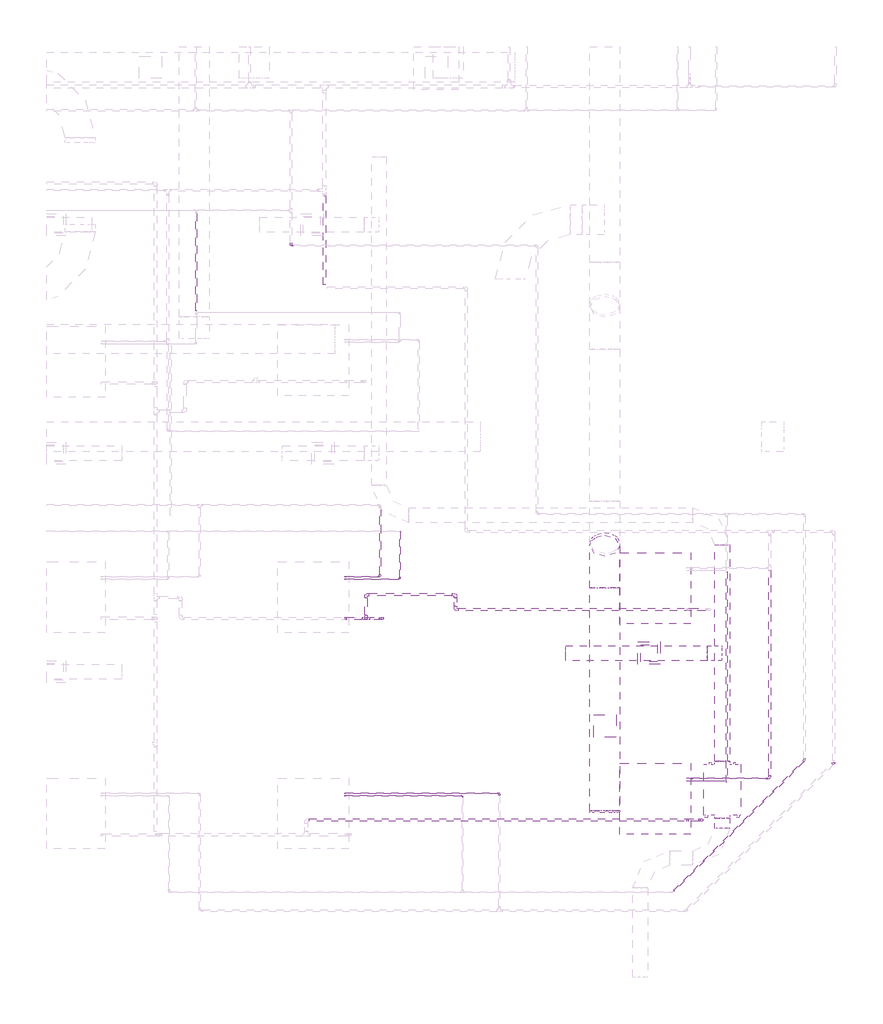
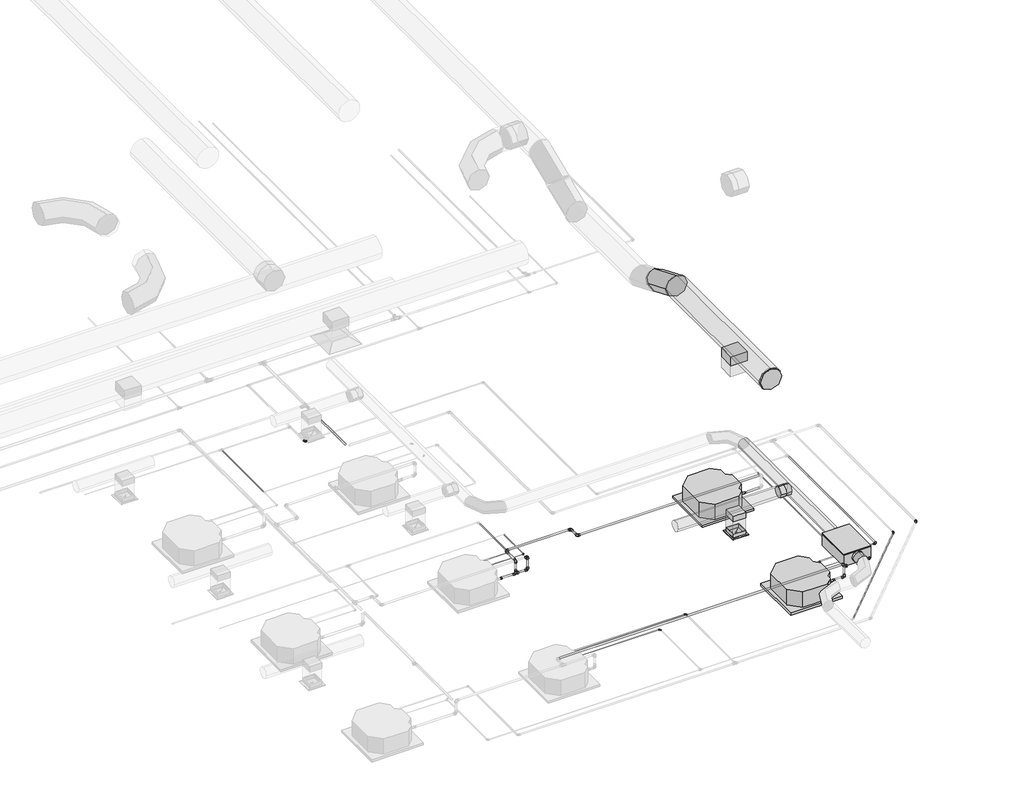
# One storey, part 11 of 21: 26 pipe fittings, 26 pipe segments, 7 duct segments, 5 duct fittings, 3 proxies, 1 air terminal.
"""IFC4 building model written with IfcOpenShell, lengths in millimetres."""

from ifc_helpers import new_model, si_unit, point, frame, frame_2d, origin, place, context, project, spatial, polyline, circle_curve, trimmed, segment, composite_curve, outline, extrude, transform, mapped, element, save
from components import sdq3535_a75e83f7, mechanical_equipment_53173f38, fh_fh_200_396573c7, duct_fitting_7b39ec1d, duct_fitting_95c1ddea, duct_fitting_4c01d837, duct_fitting_2_d_9d61b47e, m_capa_de_extremidade_redonda_c14c7098, pipe_fitting_e2d793b1, pipe_fitting_535881cf, pipe_fitting_1c810b01, pipe_fitting_f6448261, pipe_fitting_0964a024, pipe_fitting_a5ff4f7d, pipe_fitting_5aefb692, pipe_fitting_5f087375, pipe_fitting_c900cfc2, pipe_fitting_16c020f5, pipe_fitting_0e110a5f, pipe_fitting_a9265b51, pipe_fitting_59d1f3e3, pipe_fitting_648138cd, pipe_fitting_58ab9b66

model = new_model("IFC4")

# Units and contexts
model_context = context("Model", 3, world=origin())
ifc_project = project(units=[si_unit("LENGTHUNIT", "METRE", prefix="MILLI")], contexts=[model_context])

# Site, building, storey
site = spatial("IfcSite", under=ifc_project)
building = spatial("IfcBuilding", under=site)
storey = spatial("IfcBuildingStorey", under=building, Name="Nível 1", Elevation=0.0)

# Air terminal
placement = place(None, origin())
sdq3535_shape = sdq3535_a75e83f7(model_context)
element("IfcAirTerminal", 1, ObjectType="11 - Difusor Quadrado : SDQ3535", at=placement, inside=storey, context=model_context, shape_type="MappedRepresentation", body=[
    mapped(sdq3535_shape, transform((28306.2779858, -5568.1233987, 3000.0), x_axis=(0.0, 1.0, 0.0), y_axis=(-1.0, 0.0, 0.0), z_axis=(0.0, 0.0, 1.0))),
])

# Proxies
mechanical_equipment_shape = mechanical_equipment_53173f38(model_context)
element("IfcBuildingElementProxy", 2, Name="Midea_VRF_Indoor_4-way Cassette_MI-90(100,112,140)Q4_DHN1-D (2nd DC) : MI2-140Q4DHN1", ObjectType="Midea_VRF_Indoor_4-way Cassette_MI-90(100,112,140)Q4_DHN1-D (2nd DC) : MI2-140Q4DHN1", at=placement, inside=storey, context=model_context, shape_type="MappedRepresentation", body=[
    mapped(mechanical_equipment_shape, transform((28388.6034633, -7519.1233987, 2999.9934593), x_axis=(1.0, 0.0, 0.0), y_axis=(0.0, 1.0, 0.0), z_axis=(0.0, 0.0, 1.0))),
])
element("IfcBuildingElementProxy", 3, Name="Midea_VRF_Indoor_4-way Cassette_MI-90(100,112,140)Q4_DHN1-D (2nd DC) : MI2-140Q4DHN1", ObjectType="Midea_VRF_Indoor_4-way Cassette_MI-90(100,112,140)Q4_DHN1-D (2nd DC) : MI2-140Q4DHN1", at=placement, inside=storey, context=model_context, shape_type="MappedRepresentation", body=[
    mapped(mechanical_equipment_shape, transform((28388.6034633, -4699.1233987, 3000.0), x_axis=(1.0, 0.0, 0.0), y_axis=(0.0, 1.0, 0.0), z_axis=(0.0, 0.0, 1.0))),
])
fh_fh_200_shape = fh_fh_200_396573c7(model_context)
element("IfcBuildingElementProxy", 4, Name="FH : FH 200", ObjectType="FH : FH 200", at=placement, inside=storey, context=model_context, shape_type="MappedRepresentation", body=[
    mapped(fh_fh_200_shape, transform((29288.6034633, -7399.1233987, 3400.0), x_axis=(1.0, 0.0, 0.0), y_axis=(0.0, 1.0, 0.0), z_axis=(0.0, 0.0, 1.0))),
])

# Duct fittings
duct_fitting_shape = duct_fitting_7b39ec1d(model_context)
element("IfcDuctFitting", 5, ObjectType="M_Encaixe de duto redondo : Padrão", at=placement, inside=storey, context=model_context, shape_type="MappedRepresentation", body=[
    mapped(duct_fitting_shape, transform((29189.1034633, -5568.1233987, 3521.0), x_axis=(-1.0, 0.0, 0.0), y_axis=(0.0, 1.0, 0.0), z_axis=(0.0, 0.0, -1.0))),
])
duct_fitting_2_shape = duct_fitting_95c1ddea(model_context)
element("IfcDuctFitting", 6, ObjectType="M_Encaixe de duto retangular : Padrão", at=placement, inside=storey, context=model_context, shape_type="MappedRepresentation", body=[
    mapped(duct_fitting_2_shape, transform((27714.7064473, -6543.2709697, 7301.0), x_axis=(0.0, 0.0, -1.0), y_axis=(0.0, 1.0, 0.0), z_axis=(1.0, 0.0, 0.0))),
])
duct_fitting_3_shape = duct_fitting_4c01d837(model_context)
element("IfcDuctFitting", 7, ObjectType="M_Encaixe de duto retangular : Padrão", at=placement, inside=storey, context=model_context, shape_type="MappedRepresentation", body=[
    mapped(duct_fitting_3_shape, transform((28306.2779858, -5568.1233987, 3421.5), x_axis=(0.0, 0.0, -1.0), y_axis=(1.0, 0.0, 0.0), z_axis=(0.0, -1.0, 0.0))),
])
duct_fitting_2_d_shape = duct_fitting_2_d_9d61b47e(model_context)
element("IfcDuctFitting", 8, ObjectType="M_Cotovelo redondo : 2 D", at=placement, inside=storey, context=model_context, shape_type="MappedRepresentation", body=[
    mapped(duct_fitting_2_d_shape, transform((27714.7064473, -4363.6460251, 7501.0), x_axis=(0.0, -0.707106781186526, 0.7071067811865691), y_axis=(0.0, -0.7071067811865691, -0.707106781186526), z_axis=(1.0, 0.0, 0.0))),
])
m_capa_de_extremidade_redonda_shape = m_capa_de_extremidade_redonda_c14c7098(model_context)
element("IfcDuctFitting", 9, ObjectType="M_Capa de extremidade redonda : Padrão", at=placement, inside=storey, context=model_context, shape_type="MappedRepresentation", body=[
    mapped(m_capa_de_extremidade_redonda_shape, transform((27714.7064473, -7683.3010158, 7501.0), x_axis=(0.0, -1.0, 0.0), y_axis=(1.0, 0.0, 0.0), z_axis=(0.0, 0.0, 1.0))),
])

# Duct segments
element("IfcDuctSegment", 10, ObjectType="Torneiras / Raio curto", at=placement, inside=storey, context=model_context, shape_type="SweptSolid", body=[
    extrude(outline(composite_curve([segment(trimmed(circle_curve(frame_2d((3521.0, 29288.6034633)), 99.5), [point((3521.0, 29189.1034633))], [point((3421.5, 29288.6034633))], False, "CARTESIAN"), True, "CONTINUOUS"), segment(trimmed(circle_curve(frame_2d((3521.0, 29288.6034633)), 99.5), [point((3421.5, 29288.6034633))], [point((3521.0, 29388.1034633))], False, "CARTESIAN"), True, "CONTINUOUS"), segment(trimmed(circle_curve(frame_2d((3521.0, 29288.6034633)), 99.5), [point((3521.0, 29388.1034633))], [point((3620.5, 29288.6034633))], False, "CARTESIAN"), True, "CONTINUOUS"), segment(trimmed(circle_curve(frame_2d((3521.0, 29288.6034633)), 99.5), [point((3620.5, 29288.6034633))], [point((3521.0, 29189.1034633))], False, "CARTESIAN"), True, "CONTINUOUS")], self_intersect=False)), frame((0.0, -7915.4180027, 0.0), z_axis=(0.0, 1.0, 0.0), x_axis=(0.0, 0.0, 1.0)), (0.0, 0.0, 1.0), 136.294604),
])
element("IfcDuctSegment", 11, ObjectType="Torneiras / Raio curto", at=placement, inside=storey, context=model_context, shape_type="SweptSolid", body=[
    extrude(outline(composite_curve([segment(trimmed(circle_curve(frame_2d((3521.0, 29288.6034633)), 99.5), [point((3521.0, 29388.1034633))], [point((3620.5, 29288.6034633))], False, "CARTESIAN"), True, "CONTINUOUS"), segment(trimmed(circle_curve(frame_2d((3521.0, 29288.6034633)), 99.5), [point((3620.5, 29288.6034633))], [point((3521.0, 29189.1034633))], False, "CARTESIAN"), True, "CONTINUOUS"), segment(trimmed(circle_curve(frame_2d((3521.0, 29288.6034633)), 99.5), [point((3521.0, 29189.1034633))], [point((3421.5, 29288.6034633))], False, "CARTESIAN"), True, "CONTINUOUS"), segment(trimmed(circle_curve(frame_2d((3521.0, 29288.6034633)), 99.5), [point((3421.5, 29288.6034633))], [point((3521.0, 29388.1034633))], False, "CARTESIAN"), True, "CONTINUOUS")], self_intersect=False)), frame((0.0, -7019.1233987, 0.0), z_axis=(0.0, 1.0, 0.0), x_axis=(0.0, 0.0, 1.0)), (0.0, 0.0, 1.0), 2902.0),
])
element("IfcDuctSegment", 12, ObjectType="Torneiras / Raio curto", at=placement, inside=storey, context=model_context, shape_type="SweptSolid", body=[
    extrude(outline(composite_curve([segment(trimmed(circle_curve(frame_2d((-5568.1233987, 3521.0)), 99.5), [point((-5468.6233987, 3521.0))], [point((-5568.1233987, 3421.5))], False, "CARTESIAN"), True, "CONTINUOUS"), segment(trimmed(circle_curve(frame_2d((-5568.1233987, 3521.0)), 99.5), [point((-5568.1233987, 3421.5))], [point((-5667.6233987, 3521.0))], False, "CARTESIAN"), True, "CONTINUOUS"), segment(trimmed(circle_curve(frame_2d((-5568.1233987, 3521.0)), 99.5), [point((-5667.6233987, 3521.0))], [point((-5568.1233987, 3620.5))], False, "CARTESIAN"), True, "CONTINUOUS"), segment(trimmed(circle_curve(frame_2d((-5568.1233987, 3521.0)), 99.5), [point((-5568.1233987, 3620.5))], [point((-5468.6233987, 3521.0))], False, "CARTESIAN"), True, "CONTINUOUS")], self_intersect=False)), frame((27188.6034633, 0.0, 0.0), z_axis=(1.0, 0.0, 0.0), x_axis=(0.0, 1.0, 0.0)), (0.0, 0.0, 1.0), 1898.9),
])
element("IfcDuctSegment", 13, ObjectType="Raios cotovelos / torneiras", at=placement, inside=storey, context=model_context, shape_type="SweptSolid", body=[
    extrude(outline(polyline([(28193.7779858, -5455.6233987), (28418.7779858, -5455.6233987), (28418.7779858, -5680.6233987), (28193.7779858, -5680.6233987), (28193.7779858, -5455.6233987)])), frame((0.0, 0.0, 3005.0), z_axis=(0.0, 0.0, 1.0), x_axis=(1.0, 0.0, 0.0)), (0.0, 0.0, 1.0), 314.9),
])
element("IfcDuctSegment", 14, ObjectType="Torneiras / Raio curto", at=placement, inside=storey, context=model_context, shape_type="SweptSolid", body=[
    extrude(outline(composite_curve([segment(trimmed(circle_curve(frame_2d((7501.0, 27714.7064473)), 200.0), [point((7501.0, 27514.7064473))], [point((7301.0, 27714.7064473))], False, "CARTESIAN"), True, "CONTINUOUS"), segment(trimmed(circle_curve(frame_2d((7501.0, 27714.7064473)), 200.0), [point((7301.0, 27714.7064473))], [point((7501.0, 27914.7064473))], False, "CARTESIAN"), True, "CONTINUOUS"), segment(trimmed(circle_curve(frame_2d((7501.0, 27714.7064473)), 200.0), [point((7501.0, 27914.7064473))], [point((7701.0, 27714.7064473))], False, "CARTESIAN"), True, "CONTINUOUS"), segment(trimmed(circle_curve(frame_2d((7501.0, 27714.7064473)), 200.0), [point((7701.0, 27714.7064473))], [point((7501.0, 27514.7064473))], False, "CARTESIAN"), True, "CONTINUOUS")], self_intersect=False)), frame((0.0, -7683.3010158, 0.0), z_axis=(0.0, 1.0, 0.0), x_axis=(0.0, 0.0, 1.0)), (0.0, 0.0, 1.0), 2988.2841408),
])
element("IfcDuctSegment", 15, ObjectType="Torneiras / Raio curto", at=placement, inside=storey, context=model_context, shape_type="SweptSolid", body=[
    extrude(outline(composite_curve([segment(trimmed(circle_curve(frame_2d((0.0, 200.0)), 200.0), [point((-200.0, 200.0))], [point((0.0, 400.0))], False, "CARTESIAN"), True, "CONTINUOUS"), segment(trimmed(circle_curve(frame_2d((0.0, 200.0)), 200.0), [point((0.0, 400.0))], [point((200.0, 200.0))], False, "CARTESIAN"), True, "CONTINUOUS"), segment(trimmed(circle_curve(frame_2d((0.0, 200.0)), 200.0), [point((200.0, 200.0))], [point((0.0, 0.0))], False, "CARTESIAN"), True, "CONTINUOUS"), segment(trimmed(circle_curve(frame_2d((0.0, 200.0)), 200.0), [point((0.0, 0.0))], [point((-200.0, 200.0))], False, "CARTESIAN"), True, "CONTINUOUS")], self_intersect=False)), frame((27714.7064473, -4238.3819564, 7092.8932188), z_axis=(0.0, -0.7071067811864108, 0.7071067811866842), x_axis=(1.0, 0.0, 0.0)), (0.0, 0.0, 1.0), 45.779295),
])
element("IfcDuctSegment", 16, ObjectType="Raios cotovelos / torneiras", at=placement, inside=storey, context=model_context, shape_type="SweptSolid", body=[
    extrude(outline(polyline([(27564.7064473, -6693.2709697), (27564.7064473, -6393.2709697), (27864.7064473, -6393.2709697), (27864.7064473, -6693.2709697), (27564.7064473, -6693.2709697)])), frame((0.0, 0.0, 6981.6), z_axis=(0.0, 0.0, 1.0), x_axis=(1.0, 0.0, 0.0)), (0.0, 0.0, 1.0), 217.8),
])

# Pipe fittings
pipe_fitting_shape = pipe_fitting_e2d793b1(model_context)
element("IfcPipeFitting", 17, ObjectType="Bucha de redução reta - Soldada - CU : Padrão", at=placement, inside=storey, context=model_context, shape_type="MappedRepresentation", body=[
    mapped(pipe_fitting_shape, transform((24230.0530733, -5101.980613, 3252.3085101), x_axis=(1.0, 0.0, 0.0), y_axis=(0.0, 1.0, 0.0), z_axis=(0.0, 0.0, 1.0))),
])
element("IfcPipeFitting", 18, ObjectType="Bucha de redução reta - Soldada - CU : Padrão", at=placement, inside=storey, context=model_context, shape_type="MappedRepresentation", body=[
    mapped(pipe_fitting_shape, transform((28813.6034633, -7804.1233987, 3252.3019694), x_axis=(1.0, 0.0, 0.0), y_axis=(0.0, 1.0, 0.0), z_axis=(0.0, 0.0, 1.0))),
])
pipe_fitting_2_shape = pipe_fitting_535881cf(model_context)
element("IfcPipeFitting", 19, ObjectType="Cotovelo - Soldado - CU : Padrão", at=placement, inside=storey, context=model_context, shape_type="MappedRepresentation", body=[
    mapped(pipe_fitting_2_shape, transform((24730.0530732, -5101.980613, 3500.0), x_axis=(0.0, 0.0, 1.0), y_axis=(-1.0, 0.0, 0.0), z_axis=(0.0, -1.0, 0.0))),
])
element("IfcPipeFitting", 20, ObjectType="Cotovelo - Soldado - CU : Padrão", at=placement, inside=storey, context=model_context, shape_type="MappedRepresentation", body=[
    mapped(pipe_fitting_2_shape, transform((25713.6034631, -4984.1233987, 3500.0), x_axis=(0.0, -1.0, 0.0), y_axis=(1.0, 0.0, 0.0), z_axis=(0.0, 0.0, 1.0))),
])
element("IfcPipeFitting", 21, ObjectType="Cotovelo - Soldado - CU : Padrão", at=placement, inside=storey, context=model_context, shape_type="MappedRepresentation", body=[
    mapped(pipe_fitting_2_shape, transform((25713.6034631, -4784.1233987, 3500.0), x_axis=(0.0, 1.0, 0.0), y_axis=(-1.0, 0.0, 0.0), z_axis=(0.0, 0.0, 1.0))),
])
element("IfcPipeFitting", 22, ObjectType="Cotovelo - Soldado - CU : Padrão", at=placement, inside=storey, context=model_context, shape_type="MappedRepresentation", body=[
    mapped(pipe_fitting_2_shape, transform((24513.6034631, -5101.980613, 3500.0), x_axis=(0.0, 0.0, 1.0), y_axis=(0.0, 1.0, 0.0), z_axis=(-1.0, 0.0, 0.0))),
])
element("IfcPipeFitting", 23, ObjectType="Cotovelo - Soldado - CU : Padrão", at=placement, inside=storey, context=model_context, shape_type="MappedRepresentation", body=[
    mapped(pipe_fitting_2_shape, transform((24513.6034631, -4784.1233987, 3500.0), x_axis=(-1.0, 0.0, 0.0), y_axis=(0.0, -1.0, 0.0), z_axis=(0.0, 0.0, 1.0))),
])
element("IfcPipeFitting", 24, ObjectType="Cotovelo - Soldado - CU : Padrão", at=placement, inside=storey, context=model_context, shape_type="MappedRepresentation", body=[
    mapped(pipe_fitting_2_shape, transform((29013.6034631, -7804.1233987, 3500.0), x_axis=(0.0, 0.0, 1.0), y_axis=(-1.0, 0.0, 0.0), z_axis=(0.0, -1.0, 0.0))),
])
pipe_fitting_3_shape = pipe_fitting_1c810b01(model_context)
element("IfcPipeFitting", 25, ObjectType="Cotovelo - Soldado - CU : Padrão", at=placement, inside=storey, context=model_context, shape_type="MappedRepresentation", body=[
    mapped(pipe_fitting_3_shape, transform((24730.0530732, -5101.980613, 3252.3), x_axis=(0.9999999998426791, 0.0, -1.7738146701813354e-05), y_axis=(1.7738146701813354e-05, 0.0, 0.9999999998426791), z_axis=(0.0, -1.0, 0.0))),
])
pipe_fitting_4_shape = pipe_fitting_f6448261(model_context)
element("IfcPipeFitting", 26, ObjectType="Tê - Soldado - CU : Padrão", at=placement, inside=storey, context=model_context, shape_type="MappedRepresentation", body=[
    mapped(pipe_fitting_4_shape, transform((24513.6034631, -5101.980613, 3252.3038394), x_axis=(-0.9999999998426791, 0.0, 1.7738146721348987e-05), y_axis=(-1.7738146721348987e-05, 0.0, -0.9999999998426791), z_axis=(0.0, -1.0, 0.0))),
])
pipe_fitting_5_shape = pipe_fitting_0964a024(model_context)
element("IfcPipeFitting", 27, ObjectType="Cotovelo - Soldado - CU : Padrão", at=placement, inside=storey, context=model_context, shape_type="MappedRepresentation", body=[
    mapped(pipe_fitting_5_shape, transform((29013.6034631, -7804.1233987, 3252.3), x_axis=(0.9999999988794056, 0.0, -4.734119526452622e-05), y_axis=(4.734119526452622e-05, 0.0, 0.9999999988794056), z_axis=(0.0, -1.0, 0.0))),
])
pipe_fitting_6_shape = pipe_fitting_a5ff4f7d(model_context)
element("IfcPipeFitting", 28, ObjectType="Bucha de redução reta - Soldada - CU : Padrão", at=placement, inside=storey, context=model_context, shape_type="MappedRepresentation", body=[
    mapped(pipe_fitting_6_shape, transform((29889.7584103, -7245.9125851, 3246.9890743), x_axis=(-0.9999844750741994, 0.0, 0.0055722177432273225), y_axis=(0.0, -1.0, 0.0), z_axis=(0.0055722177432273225, 0.0, 0.9999844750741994))),
])
pipe_fitting_7_shape = pipe_fitting_5aefb692(model_context)
element("IfcPipeFitting", 29, ObjectType="Cotovelo - Soldado - CU : Padrão", at=placement, inside=storey, context=model_context, shape_type="MappedRepresentation", body=[
    mapped(pipe_fitting_7_shape, transform((29923.6894835, -7245.9125851, 3246.8), x_axis=(0.9999844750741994, 0.0, -0.0055722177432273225), y_axis=(0.0, 1.0, 0.0), z_axis=(0.0055722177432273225, 0.0, 0.9999844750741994))),
])
pipe_fitting_8_shape = pipe_fitting_5f087375(model_context)
element("IfcPipeFitting", 30, ObjectType="Cotovelo - Soldado - CU : Padrão", at=placement, inside=storey, context=model_context, shape_type="MappedRepresentation", body=[
    mapped(pipe_fitting_8_shape, transform((30783.5082335, -7037.5722412, 3246.8), x_axis=(0.7071067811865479, 0.7071067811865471, 0.0), y_axis=(-0.7071067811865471, 0.7071067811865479, 0.0), z_axis=(0.0, 0.0, 1.0))),
])
pipe_fitting_9_shape = pipe_fitting_c900cfc2(model_context)
element("IfcPipeFitting", 31, ObjectType="Bucha de redução reta - Soldada - CU : Padrão", at=placement, inside=storey, context=model_context, shape_type="MappedRepresentation", body=[
    mapped(pipe_fitting_9_shape, transform((24230.0530733, -7443.7697994, 3252.3085101), x_axis=(1.0, 0.0, 0.0), y_axis=(0.0, 1.0, 0.0), z_axis=(0.0, 0.0, 1.0))),
])
element("IfcPipeFitting", 32, ObjectType="Bucha de redução reta - Soldada - CU : Padrão", at=placement, inside=storey, context=model_context, shape_type="MappedRepresentation", body=[
    mapped(pipe_fitting_9_shape, transform((24230.0530733, -4543.7697994, 3252.3085101), x_axis=(1.0, 0.0, 0.0), y_axis=(0.0, 1.0, 0.0), z_axis=(0.0, 0.0, 1.0))),
])
element("IfcPipeFitting", 33, ObjectType="Bucha de redução reta - Soldada - CU : Padrão", at=placement, inside=storey, context=model_context, shape_type="MappedRepresentation", body=[
    mapped(pipe_fitting_9_shape, transform((28877.0623051, -7245.9125851, 3252.3019694), x_axis=(1.0, 0.0, 0.0), y_axis=(0.0, 1.0, 0.0), z_axis=(0.0, 0.0, 1.0))),
])
pipe_fitting_10_shape = pipe_fitting_16c020f5(model_context)
element("IfcPipeFitting", 34, ObjectType="Cotovelo - Soldado - CU : Padrão", at=placement, inside=storey, context=model_context, shape_type="MappedRepresentation", body=[
    mapped(pipe_fitting_10_shape, transform((24702.7119733, -4543.7697994, 3252.3085101), x_axis=(1.0, 0.0, 0.0), y_axis=(0.0, 0.9999766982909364, 0.0068266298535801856), z_axis=(0.0, -0.0068266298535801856, 0.9999766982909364))),
])
element("IfcPipeFitting", 35, ObjectType="Cotovelo - Soldado - CU : Padrão", at=placement, inside=storey, context=model_context, shape_type="MappedRepresentation", body=[
    mapped(pipe_fitting_10_shape, transform((26301.0744733, -7443.7697994, 3252.3085101), x_axis=(0.0, 0.9999931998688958, 0.003687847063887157), y_axis=(-1.0, 0.0, 0.0), z_axis=(0.0, -0.003687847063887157, 0.9999931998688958))),
])
pipe_fitting_11_shape = pipe_fitting_0e110a5f(model_context)
element("IfcPipeFitting", 36, ObjectType="Cotovelo - Soldado - CU : Padrão", at=placement, inside=storey, context=model_context, shape_type="MappedRepresentation", body=[
    mapped(pipe_fitting_11_shape, transform((23507.2025647, -103.2962428, 3146.8), x_axis=(0.0, -1.0, 0.0), y_axis=(1.0, 0.0, 0.0), z_axis=(0.0, 0.0, 1.0))),
])
pipe_fitting_12_shape = pipe_fitting_a9265b51(model_context)
element("IfcPipeFitting", 37, ObjectType="Cotovelo - Soldado - CU : Padrão", at=placement, inside=storey, context=model_context, shape_type="MappedRepresentation", body=[
    mapped(pipe_fitting_12_shape, transform((30389.1894121, -7003.2962428, 3146.8), x_axis=(0.7071067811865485, 0.7071067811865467, 0.0), y_axis=(-0.7071067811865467, 0.7071067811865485, 0.0), z_axis=(0.0, 0.0, 1.0))),
])
pipe_fitting_13_shape = pipe_fitting_59d1f3e3(model_context)
element("IfcPipeFitting", 38, ObjectType="Bucha de redução reta - Soldada - CU : Padrão", at=placement, inside=storey, context=model_context, shape_type="MappedRepresentation", body=[
    mapped(pipe_fitting_13_shape, transform((24230.0530733, -7477.5722412, 3146.8446487), x_axis=(1.0, 0.0, 0.0), y_axis=(0.0, 1.0, 0.0), z_axis=(0.0, 0.0, 1.0))),
])
element("IfcPipeFitting", 39, ObjectType="Bucha de redução reta - Soldada - CU : Padrão", at=placement, inside=storey, context=model_context, shape_type="MappedRepresentation", body=[
    mapped(pipe_fitting_13_shape, transform((28813.6034633, -7279.7150269, 3146.8381081), x_axis=(1.0, 0.0, 0.0), y_axis=(0.0, 1.0, 0.0), z_axis=(0.0, 0.0, 1.0))),
])
pipe_fitting_14_shape = pipe_fitting_648138cd(model_context)
element("IfcPipeFitting", 40, ObjectType="Cotovelo - Soldado - CU : Padrão", at=placement, inside=storey, context=model_context, shape_type="MappedRepresentation", body=[
    mapped(pipe_fitting_14_shape, transform((24967.6118713, -4577.5722412, 3146.8013354), x_axis=(0.9999999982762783, 0.0, -5.871493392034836e-05), y_axis=(-1.2251075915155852e-10, 0.9999999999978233, -2.086534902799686e-06), z_axis=(5.871493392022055e-05, 2.0865349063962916e-06, 0.9999999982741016))),
])
element("IfcPipeFitting", 41, ObjectType="Cotovelo - Soldado - CU : Padrão", at=placement, inside=storey, context=model_context, shape_type="MappedRepresentation", body=[
    mapped(pipe_fitting_14_shape, transform((25806.0274724, -7477.5722412, 3146.800984), x_axis=(0.0, 0.9999999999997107, 7.608439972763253e-07), y_axis=(-0.9999999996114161, -2.1210610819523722e-11, 2.787773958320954e-05), z_axis=(2.7877739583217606e-05, -7.608439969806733e-07, 0.9999999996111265))),
])
pipe_fitting_15_shape = pipe_fitting_58ab9b66(model_context)
element("IfcPipeFitting", 42, ObjectType="Bucha de redução reta - Soldada - CU : Padrão", at=placement, inside=storey, context=model_context, shape_type="MappedRepresentation", body=[
    mapped(pipe_fitting_15_shape, transform((24239.7274733, -4577.5722412, 3146.8440731), x_axis=(-0.999999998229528, 0.0, 5.95058331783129e-05), y_axis=(0.0, -1.0000000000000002, 0.0), z_axis=(5.95058331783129e-05, 0.0, 0.999999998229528))),
])

# Pipe segments
element("IfcPipeSegment", 43, ObjectType="Tubos de cobre HVAC", at=placement, inside=storey, context=model_context, shape_type="SweptSolid", body=[
    extrude(outline(composite_curve([segment(trimmed(circle_curve(frame_2d((0.0, -7.935)), 7.935), [point((0.0, -15.87))], [point((-7.935, -7.935))], False, "CARTESIAN"), True, "CONTINUOUS"), segment(trimmed(circle_curve(frame_2d((0.0, -7.935)), 7.935), [point((-7.935, -7.935))], [point((0.0, 0.0))], False, "CARTESIAN"), True, "CONTINUOUS"), segment(trimmed(circle_curve(frame_2d((0.0, -7.935)), 7.935), [point((0.0, 0.0))], [point((7.935, -7.935))], False, "CARTESIAN"), True, "CONTINUOUS"), segment(trimmed(circle_curve(frame_2d((0.0, -7.935)), 7.935), [point((7.935, -7.935))], [point((0.0, -15.87))], False, "CARTESIAN"), True, "CONTINUOUS")], self_intersect=False)), frame((29877.0997068, -7237.9775851, 3247.0596124), z_axis=(-0.9999859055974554, 0.0, 0.005309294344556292), x_axis=(0.005309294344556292, 0.0, 0.9999859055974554)), (0.0, 0.0, 1.0), 987.3924184),
])
element("IfcPipeSegment", 44, ObjectType="Tubos de cobre HVAC", at=placement, inside=storey, context=model_context, shape_type="SweptSolid", body=[
    extrude(outline(composite_curve([segment(trimmed(circle_curve(frame_2d((-4543.7697994, 3252.3085101)), 7.935), [point((-4551.7047994, 3252.3085101))], [point((-4543.7697994, 3260.2435101))], False, "CARTESIAN"), True, "CONTINUOUS"), segment(trimmed(circle_curve(frame_2d((-4543.7697994, 3252.3085101)), 7.935), [point((-4543.7697994, 3260.2435101))], [point((-4535.8347994, 3252.3085101))], False, "CARTESIAN"), True, "CONTINUOUS"), segment(trimmed(circle_curve(frame_2d((-4543.7697994, 3252.3085101)), 7.935), [point((-4535.8347994, 3252.3085101))], [point((-4543.7697994, 3244.3735101))], False, "CARTESIAN"), True, "CONTINUOUS"), segment(trimmed(circle_curve(frame_2d((-4543.7697994, 3252.3085101)), 7.935), [point((-4543.7697994, 3244.3735101))], [point((-4551.7047994, 3252.3085101))], False, "CARTESIAN"), True, "CONTINUOUS")], self_intersect=False)), frame((24242.7119733, 0.0, 0.0), z_axis=(1.0, 0.0, 0.0), x_axis=(0.0, 1.0, 0.0)), (0.0, 0.0, 1.0), 431.0214),
])
element("IfcPipeSegment", 45, ObjectType="Tubos de cobre HVAC", at=placement, inside=storey, context=model_context, shape_type="SweptSolid", body=[
    extrude(outline(composite_curve([segment(trimmed(circle_curve(frame_2d((-7443.7697994, 3252.3085101)), 7.935), [point((-7451.7047994, 3252.3085101))], [point((-7443.7697994, 3260.2435101))], False, "CARTESIAN"), True, "CONTINUOUS"), segment(trimmed(circle_curve(frame_2d((-7443.7697994, 3252.3085101)), 7.935), [point((-7443.7697994, 3260.2435101))], [point((-7435.8347994, 3252.3085101))], False, "CARTESIAN"), True, "CONTINUOUS"), segment(trimmed(circle_curve(frame_2d((-7443.7697994, 3252.3085101)), 7.935), [point((-7435.8347994, 3252.3085101))], [point((-7443.7697994, 3244.3735101))], False, "CARTESIAN"), True, "CONTINUOUS"), segment(trimmed(circle_curve(frame_2d((-7443.7697994, 3252.3085101)), 7.935), [point((-7443.7697994, 3244.3735101))], [point((-7451.7047994, 3252.3085101))], False, "CARTESIAN"), True, "CONTINUOUS")], self_intersect=False)), frame((24242.7119733, 0.0, 0.0), z_axis=(1.0, 0.0, 0.0), x_axis=(0.0, 1.0, 0.0)), (0.0, 0.0, 1.0), 2029.3839),
])
element("IfcPipeSegment", 46, ObjectType="Tubos de cobre HVAC", at=placement, inside=storey, context=model_context, shape_type="SweptSolid", body=[
    extrude(outline(composite_curve([segment(trimmed(circle_curve(frame_2d((0.0, -4.76)), 4.76), [point((-4.76, -4.76))], [point((0.0, 0.0))], False, "CARTESIAN"), True, "CONTINUOUS"), segment(trimmed(circle_curve(frame_2d((0.0, -4.76)), 4.76), [point((0.0, 0.0))], [point((4.76, -4.76))], False, "CARTESIAN"), True, "CONTINUOUS"), segment(trimmed(circle_curve(frame_2d((0.0, -4.76)), 4.76), [point((4.76, -4.76))], [point((0.0, -9.52))], False, "CARTESIAN"), True, "CONTINUOUS"), segment(trimmed(circle_curve(frame_2d((0.0, -4.76)), 4.76), [point((0.0, -9.52))], [point((-4.76, -4.76))], False, "CARTESIAN"), True, "CONTINUOUS")], self_intersect=False)), frame((29323.2776482, -7279.7150269, 3142.0555656), z_axis=(-0.9999999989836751, 0.0, 4.5084919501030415e-05), x_axis=(0.0, 1.0, 0.0)), (0.0, 0.0, 1.0), 500.0),
])
element("IfcPipeSegment", 47, ObjectType="Tubos de cobre HVAC", at=placement, inside=storey, context=model_context, shape_type="SweptSolid", body=[
    extrude(outline(composite_curve([segment(trimmed(circle_curve(frame_2d((0.0, -4.76)), 4.76), [point((-4.76, -4.76))], [point((0.0, 0.0))], False, "CARTESIAN"), True, "CONTINUOUS"), segment(trimmed(circle_curve(frame_2d((0.0, -4.76)), 4.76), [point((0.0, 0.0))], [point((4.76, -4.76))], False, "CARTESIAN"), True, "CONTINUOUS"), segment(trimmed(circle_curve(frame_2d((0.0, -4.76)), 4.76), [point((4.76, -4.76))], [point((0.0, -9.52))], False, "CARTESIAN"), True, "CONTINUOUS"), segment(trimmed(circle_curve(frame_2d((0.0, -4.76)), 4.76), [point((0.0, -9.52))], [point((-4.76, -4.76))], False, "CARTESIAN"), True, "CONTINUOUS")], self_intersect=False)), frame((25782.0017397, -7477.5722412, 3142.0416536), z_axis=(-0.9999999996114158, 0.0, 2.787773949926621e-05), x_axis=(0.0, 1.0, 0.0)), (0.0, 0.0, 1.0), 1542.2743997),
])
element("IfcPipeSegment", 48, ObjectType="Tubos de cobre HVAC", at=placement, inside=storey, context=model_context, shape_type="SweptSolid", body=[
    extrude(outline(composite_curve([segment(trimmed(circle_curve(frame_2d((0.0, 4.7599999)), 4.76), [point((-4.76, 4.7599999))], [point((0.0, 9.5199999))], False, "CARTESIAN"), True, "CONTINUOUS"), segment(trimmed(circle_curve(frame_2d((0.0, 4.7599999)), 4.76), [point((0.0, 9.5199999))], [point((4.76, 4.7599999))], False, "CARTESIAN"), True, "CONTINUOUS"), segment(trimmed(circle_curve(frame_2d((0.0, 4.7599999)), 4.76), [point((4.76, 4.7599999))], [point((0.0, 0.0))], False, "CARTESIAN"), True, "CONTINUOUS"), segment(trimmed(circle_curve(frame_2d((0.0, 4.7599999)), 4.76), [point((0.0, 0.0))], [point((-4.76, 4.7599999))], False, "CARTESIAN"), True, "CONTINUOUS")], self_intersect=False)), frame((24943.5859919, -4577.5722412, 3142.0427461), z_axis=(-0.9999999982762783, 0.0, 5.871493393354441e-05), x_axis=(0.0, -1.0, 0.0)), (0.0, 0.0, 1.0), 703.8587993),
])
element("IfcPipeSegment", 49, ObjectType="Tubos de cobre HVAC", at=placement, inside=storey, context=model_context, shape_type="SweptSolid", body=[
    extrude(outline(composite_curve([segment(trimmed(circle_curve(frame_2d((-5101.980613, 3252.302996)), 17.5), [point((-5119.480613, 3252.302996))], [point((-5101.980613, 3269.802996))], False, "CARTESIAN"), True, "CONTINUOUS"), segment(trimmed(circle_curve(frame_2d((-5101.980613, 3252.302996)), 17.5), [point((-5101.980613, 3269.802996))], [point((-5084.480613, 3252.302996))], False, "CARTESIAN"), True, "CONTINUOUS"), segment(trimmed(circle_curve(frame_2d((-5101.980613, 3252.302996)), 17.5), [point((-5084.480613, 3252.302996))], [point((-5101.980613, 3234.802996))], False, "CARTESIAN"), True, "CONTINUOUS"), segment(trimmed(circle_curve(frame_2d((-5101.980613, 3252.302996)), 17.5), [point((-5101.980613, 3234.802996))], [point((-5119.480613, 3252.302996))], False, "CARTESIAN"), True, "CONTINUOUS")], self_intersect=False)), frame((24561.1534631, 0.0, 0.0), z_axis=(1.0, 0.0, 0.0), x_axis=(0.0, 1.0, 0.0)), (0.0, 0.0, 1.0), 127.2996101),
])
element("IfcPipeSegment", 50, ObjectType="Tubos de cobre HVAC", at=placement, inside=storey, context=model_context, shape_type="SweptSolid", body=[
    extrude(outline(composite_curve([segment(trimmed(circle_curve(frame_2d((24730.0530732, -5101.980613)), 17.5), [point((24747.5530732, -5101.980613))], [point((24730.0530732, -5119.480613))], False, "CARTESIAN"), True, "CONTINUOUS"), segment(trimmed(circle_curve(frame_2d((24730.0530732, -5101.980613)), 17.5), [point((24730.0530732, -5119.480613))], [point((24712.5530732, -5101.980613))], False, "CARTESIAN"), True, "CONTINUOUS"), segment(trimmed(circle_curve(frame_2d((24730.0530732, -5101.980613)), 17.5), [point((24712.5530732, -5101.980613))], [point((24730.0530732, -5084.480613))], False, "CARTESIAN"), True, "CONTINUOUS"), segment(trimmed(circle_curve(frame_2d((24730.0530732, -5101.980613)), 17.5), [point((24730.0530732, -5084.480613))], [point((24747.5530732, -5101.980613))], False, "CARTESIAN"), True, "CONTINUOUS")], self_intersect=False)), frame((0.0, 0.0, 3293.9), z_axis=(0.0, 0.0, 1.0), x_axis=(1.0, 0.0, 0.0)), (0.0, 0.0, 1.0), 164.5),
])
element("IfcPipeSegment", 51, ObjectType="Tubos de cobre HVAC", at=placement, inside=storey, context=model_context, shape_type="SweptSolid", body=[
    extrude(outline(composite_curve([segment(trimmed(circle_curve(frame_2d((0.0, -17.5)), 17.5), [point((-17.5, -17.5))], [point((0.0, 0.0))], False, "CARTESIAN"), True, "CONTINUOUS"), segment(trimmed(circle_curve(frame_2d((0.0, -17.5)), 17.5), [point((0.0, 0.0))], [point((17.5, -17.5))], False, "CARTESIAN"), True, "CONTINUOUS"), segment(trimmed(circle_curve(frame_2d((0.0, -17.5)), 17.5), [point((17.5, -17.5))], [point((0.0, -35.0))], False, "CARTESIAN"), True, "CONTINUOUS"), segment(trimmed(circle_curve(frame_2d((0.0, -17.5)), 17.5), [point((0.0, -35.0))], [point((-17.5, -17.5))], False, "CARTESIAN"), True, "CONTINUOUS")], self_intersect=False)), frame((29072.0029308, -4984.1233987, 3234.8012654), z_axis=(-0.9999999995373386, 0.0, 3.0419120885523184e-05), x_axis=(0.0, 1.0, 0.0)), (0.0, 0.0, 1.0), 238.16),
])
element("IfcPipeSegment", 52, ObjectType="Tubos de cobre HVAC", at=placement, inside=storey, context=model_context, shape_type="SweptSolid", body=[
    extrude(outline(composite_curve([segment(trimmed(circle_curve(frame_2d((-4984.1233987, 3500.0)), 17.5), [point((-4966.6233987, 3500.0))], [point((-4984.1233987, 3482.5))], False, "CARTESIAN"), True, "CONTINUOUS"), segment(trimmed(circle_curve(frame_2d((-4984.1233987, 3500.0)), 17.5), [point((-4984.1233987, 3482.5))], [point((-5001.6233987, 3500.0))], False, "CARTESIAN"), True, "CONTINUOUS"), segment(trimmed(circle_curve(frame_2d((-4984.1233987, 3500.0)), 17.5), [point((-5001.6233987, 3500.0))], [point((-4984.1233987, 3517.5))], False, "CARTESIAN"), True, "CONTINUOUS"), segment(trimmed(circle_curve(frame_2d((-4984.1233987, 3500.0)), 17.5), [point((-4984.1233987, 3517.5))], [point((-4966.6233987, 3500.0))], False, "CARTESIAN"), True, "CONTINUOUS")], self_intersect=False)), frame((25755.2034631, 0.0, 0.0), z_axis=(1.0, 0.0, 0.0), x_axis=(0.0, 1.0, 0.0)), (0.0, 0.0, 1.0), 3316.8),
])
element("IfcPipeSegment", 53, ObjectType="Tubos de cobre HVAC", at=placement, inside=storey, context=model_context, shape_type="SweptSolid", body=[
    extrude(outline(composite_curve([segment(trimmed(circle_curve(frame_2d((3500.0, 25713.6034631)), 17.5), [point((3500.0, 25731.1034631))], [point((3517.5, 25713.6034631))], False, "CARTESIAN"), True, "CONTINUOUS"), segment(trimmed(circle_curve(frame_2d((3500.0, 25713.6034631)), 17.5), [point((3517.5, 25713.6034631))], [point((3500.0, 25696.1034631))], False, "CARTESIAN"), True, "CONTINUOUS"), segment(trimmed(circle_curve(frame_2d((3500.0, 25713.6034631)), 17.5), [point((3500.0, 25696.1034631))], [point((3482.5, 25713.6034631))], False, "CARTESIAN"), True, "CONTINUOUS"), segment(trimmed(circle_curve(frame_2d((3500.0, 25713.6034631)), 17.5), [point((3482.5, 25713.6034631))], [point((3500.0, 25731.1034631))], False, "CARTESIAN"), True, "CONTINUOUS")], self_intersect=False)), frame((0.0, -4942.5233987, 0.0), z_axis=(0.0, 1.0, 0.0), x_axis=(0.0, 0.0, 1.0)), (0.0, 0.0, 1.0), 116.8),
])
element("IfcPipeSegment", 54, ObjectType="Tubos de cobre HVAC", at=placement, inside=storey, context=model_context, shape_type="SweptSolid", body=[
    extrude(outline(composite_curve([segment(trimmed(circle_curve(frame_2d((-4784.1233987, 3500.0)), 17.5), [point((-4766.6233987, 3500.0))], [point((-4784.1233987, 3482.5))], False, "CARTESIAN"), True, "CONTINUOUS"), segment(trimmed(circle_curve(frame_2d((-4784.1233987, 3500.0)), 17.5), [point((-4784.1233987, 3482.5))], [point((-4801.6233987, 3500.0))], False, "CARTESIAN"), True, "CONTINUOUS"), segment(trimmed(circle_curve(frame_2d((-4784.1233987, 3500.0)), 17.5), [point((-4801.6233987, 3500.0))], [point((-4784.1233987, 3517.5))], False, "CARTESIAN"), True, "CONTINUOUS"), segment(trimmed(circle_curve(frame_2d((-4784.1233987, 3500.0)), 17.5), [point((-4784.1233987, 3517.5))], [point((-4766.6233987, 3500.0))], False, "CARTESIAN"), True, "CONTINUOUS")], self_intersect=False)), frame((24555.2034631, 0.0, 0.0), z_axis=(1.0, 0.0, 0.0), x_axis=(0.0, 1.0, 0.0)), (0.0, 0.0, 1.0), 1116.8),
])
element("IfcPipeSegment", 55, ObjectType="Tubos de cobre HVAC", at=placement, inside=storey, context=model_context, shape_type="SweptSolid", body=[
    extrude(outline(composite_curve([segment(trimmed(circle_curve(frame_2d((3500.0, 24513.6034631)), 17.5), [point((3500.0, 24531.1034631))], [point((3517.5, 24513.6034631))], False, "CARTESIAN"), True, "CONTINUOUS"), segment(trimmed(circle_curve(frame_2d((3500.0, 24513.6034631)), 17.5), [point((3517.5, 24513.6034631))], [point((3500.0, 24496.1034631))], False, "CARTESIAN"), True, "CONTINUOUS"), segment(trimmed(circle_curve(frame_2d((3500.0, 24513.6034631)), 17.5), [point((3500.0, 24496.1034631))], [point((3482.5, 24513.6034631))], False, "CARTESIAN"), True, "CONTINUOUS"), segment(trimmed(circle_curve(frame_2d((3500.0, 24513.6034631)), 17.5), [point((3482.5, 24513.6034631))], [point((3500.0, 24531.1034631))], False, "CARTESIAN"), True, "CONTINUOUS")], self_intersect=False)), frame((0.0, -5060.380613, 0.0), z_axis=(0.0, 1.0, 0.0), x_axis=(0.0, 0.0, 1.0)), (0.0, 0.0, 1.0), 234.6572143),
])
element("IfcPipeSegment", 56, ObjectType="Tubos de cobre HVAC", at=placement, inside=storey, context=model_context, shape_type="SweptSolid", body=[
    extrude(outline(composite_curve([segment(trimmed(circle_curve(frame_2d((24513.6034631, -5101.980613)), 17.5), [point((24496.1034631, -5101.980613))], [point((24513.6034631, -5084.480613))], False, "CARTESIAN"), True, "CONTINUOUS"), segment(trimmed(circle_curve(frame_2d((24513.6034631, -5101.980613)), 17.5), [point((24513.6034631, -5084.480613))], [point((24531.1034631, -5101.980613))], False, "CARTESIAN"), True, "CONTINUOUS"), segment(trimmed(circle_curve(frame_2d((24513.6034631, -5101.980613)), 17.5), [point((24531.1034631, -5101.980613))], [point((24513.6034631, -5119.480613))], False, "CARTESIAN"), True, "CONTINUOUS"), segment(trimmed(circle_curve(frame_2d((24513.6034631, -5101.980613)), 17.5), [point((24513.6034631, -5119.480613))], [point((24496.1034631, -5101.980613))], False, "CARTESIAN"), True, "CONTINUOUS")], self_intersect=False)), frame((0.0, 0.0, 3318.1038394), z_axis=(0.0, 0.0, 1.0), x_axis=(1.0, 0.0, 0.0)), (0.0, 0.0, 1.0), 140.2961606),
])
element("IfcPipeSegment", 57, ObjectType="Tubos de cobre HVAC", at=placement, inside=storey, context=model_context, shape_type="SweptSolid", body=[
    extrude(outline(composite_curve([segment(trimmed(circle_curve(frame_2d((0.0, -17.5)), 17.5), [point((-17.5, -17.5))], [point((0.0, 0.0))], False, "CARTESIAN"), True, "CONTINUOUS"), segment(trimmed(circle_curve(frame_2d((0.0, -17.5)), 17.5), [point((0.0, 0.0))], [point((17.5, -17.5))], False, "CARTESIAN"), True, "CONTINUOUS"), segment(trimmed(circle_curve(frame_2d((0.0, -17.5)), 17.5), [point((17.5, -17.5))], [point((0.0, -35.0))], False, "CARTESIAN"), True, "CONTINUOUS"), segment(trimmed(circle_curve(frame_2d((0.0, -17.5)), 17.5), [point((0.0, -35.0))], [point((-17.5, -17.5))], False, "CARTESIAN"), True, "CONTINUOUS")], self_intersect=False)), frame((24466.0531527, -5101.980613, 3234.8046829), z_axis=(-0.9999999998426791, 0.0, 1.77381467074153e-05), x_axis=(0.0, 1.0, 0.0)), (0.0, 0.0, 1.0), 215.7603899),
])
element("IfcPipeSegment", 58, ObjectType="Tubos de cobre HVAC", at=placement, inside=storey, context=model_context, shape_type="SweptSolid", body=[
    extrude(outline(composite_curve([segment(trimmed(circle_curve(frame_2d((-7804.1233987, 3252.3019694)), 17.5), [point((-7821.6233987, 3252.3019694))], [point((-7804.1233987, 3269.8019694))], False, "CARTESIAN"), True, "CONTINUOUS"), segment(trimmed(circle_curve(frame_2d((-7804.1233987, 3252.3019694)), 17.5), [point((-7804.1233987, 3269.8019694))], [point((-7786.6233987, 3252.3019694))], False, "CARTESIAN"), True, "CONTINUOUS"), segment(trimmed(circle_curve(frame_2d((-7804.1233987, 3252.3019694)), 17.5), [point((-7786.6233987, 3252.3019694))], [point((-7804.1233987, 3234.8019694))], False, "CARTESIAN"), True, "CONTINUOUS"), segment(trimmed(circle_curve(frame_2d((-7804.1233987, 3252.3019694)), 17.5), [point((-7804.1233987, 3234.8019694))], [point((-7821.6233987, 3252.3019694))], False, "CARTESIAN"), True, "CONTINUOUS")], self_intersect=False)), frame((28833.8434633, 0.0, 0.0), z_axis=(1.0, 0.0, 0.0), x_axis=(0.0, 1.0, 0.0)), (0.0, 0.0, 1.0), 138.1599999),
])
element("IfcPipeSegment", 59, ObjectType="Tubos de cobre HVAC", at=placement, inside=storey, context=model_context, shape_type="SweptSolid", body=[
    extrude(outline(composite_curve([segment(trimmed(circle_curve(frame_2d((29013.6034631, -7804.1233987)), 17.5), [point((29031.1034631, -7804.1233987))], [point((29013.6034631, -7821.6233987))], False, "CARTESIAN"), True, "CONTINUOUS"), segment(trimmed(circle_curve(frame_2d((29013.6034631, -7804.1233987)), 17.5), [point((29013.6034631, -7821.6233987))], [point((28996.1034631, -7804.1233987))], False, "CARTESIAN"), True, "CONTINUOUS"), segment(trimmed(circle_curve(frame_2d((29013.6034631, -7804.1233987)), 17.5), [point((28996.1034631, -7804.1233987))], [point((29013.6034631, -7786.6233987))], False, "CARTESIAN"), True, "CONTINUOUS"), segment(trimmed(circle_curve(frame_2d((29013.6034631, -7804.1233987)), 17.5), [point((29013.6034631, -7786.6233987))], [point((29031.1034631, -7804.1233987))], False, "CARTESIAN"), True, "CONTINUOUS")], self_intersect=False)), frame((0.0, 0.0, 3293.9), z_axis=(0.0, 0.0, 1.0), x_axis=(1.0, 0.0, 0.0)), (0.0, 0.0, 1.0), 164.5),
])
element("IfcPipeSegment", 60, ObjectType="Tubos de cobre HVAC", at=placement, inside=storey, context=model_context, shape_type="SweptSolid", body=[
    extrude(outline(composite_curve([segment(trimmed(circle_curve(frame_2d((-7804.1233987, 3500.0)), 17.5), [point((-7786.6233987, 3500.0))], [point((-7804.1233987, 3482.5))], False, "CARTESIAN"), True, "CONTINUOUS"), segment(trimmed(circle_curve(frame_2d((-7804.1233987, 3500.0)), 17.5), [point((-7804.1233987, 3482.5))], [point((-7821.6233987, 3500.0))], False, "CARTESIAN"), True, "CONTINUOUS"), segment(trimmed(circle_curve(frame_2d((-7804.1233987, 3500.0)), 17.5), [point((-7821.6233987, 3500.0))], [point((-7804.1233987, 3517.5))], False, "CARTESIAN"), True, "CONTINUOUS"), segment(trimmed(circle_curve(frame_2d((-7804.1233987, 3500.0)), 17.5), [point((-7804.1233987, 3517.5))], [point((-7786.6233987, 3500.0))], False, "CARTESIAN"), True, "CONTINUOUS")], self_intersect=False)), frame((23755.2034631, 0.0, 0.0), z_axis=(1.0, 0.0, 0.0), x_axis=(0.0, 1.0, 0.0)), (0.0, 0.0, 1.0), 5216.8),
])
element("IfcPipeSegment", 61, ObjectType="Tubos de cobre HVAC", at=placement, inside=storey, context=model_context, shape_type="SweptSolid", body=[
    extrude(outline(composite_curve([segment(trimmed(circle_curve(frame_2d((0.0, 15.8750001)), 15.875), [point((-15.875, 15.8750001))], [point((0.0, 31.75))], False, "CARTESIAN"), True, "CONTINUOUS"), segment(trimmed(circle_curve(frame_2d((0.0, 15.8750001)), 15.875), [point((0.0, 31.75))], [point((15.875, 15.8750001))], False, "CARTESIAN"), True, "CONTINUOUS"), segment(trimmed(circle_curve(frame_2d((0.0, 15.8750001)), 15.875), [point((15.875, 15.8750001))], [point((0.0, 0.0))], False, "CARTESIAN"), True, "CONTINUOUS"), segment(trimmed(circle_curve(frame_2d((0.0, 15.8750001)), 15.875), [point((0.0, 0.0))], [point((-15.875, 15.8750001))], False, "CARTESIAN"), True, "CONTINUOUS")], self_intersect=False)), frame((23956.1500382, 559.6064158, 3227.8423604), z_axis=(0.0, -0.9999968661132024, 0.0025035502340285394), x_axis=(1.0, 0.0, 0.0)), (0.0, 0.0, 1.0), 1189.9621401),
])
element("IfcPipeSegment", 62, ObjectType="Tubos de cobre HVAC", at=placement, inside=storey, context=model_context, shape_type="SweptSolid", body=[
    extrude(outline(composite_curve([segment(trimmed(circle_curve(frame_2d((0.0, -7.9349999)), 7.935), [point((-7.935, -7.9349999))], [point((0.0, 0.0))], False, "CARTESIAN"), True, "CONTINUOUS"), segment(trimmed(circle_curve(frame_2d((0.0, -7.9349999)), 7.935), [point((0.0, 0.0))], [point((7.935, -7.9349999))], False, "CARTESIAN"), True, "CONTINUOUS"), segment(trimmed(circle_curve(frame_2d((0.0, -7.9349999)), 7.935), [point((7.935, -7.9349999))], [point((0.0, -15.87))], False, "CARTESIAN"), True, "CONTINUOUS"), segment(trimmed(circle_curve(frame_2d((0.0, -7.9349999)), 7.935), [point((0.0, -15.87))], [point((-7.935, -7.9349999))], False, "CARTESIAN"), True, "CONTINUOUS")], self_intersect=False)), frame((24702.7119733, -4514.7394722, 3244.5715093), z_axis=(0.0, 0.9999781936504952, 0.006603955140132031), x_axis=(1.0, 0.0, 0.0)), (0.0, 0.0, 1.0), 889.5421915),
])
element("IfcPipeSegment", 63, ObjectType="Tubos de cobre HVAC", at=placement, inside=storey, context=model_context, shape_type="SweptSolid", body=[
    extrude(outline(composite_curve([segment(trimmed(circle_curve(frame_2d((0.0, 4.76)), 4.76), [point((0.0, 9.52))], [point((4.76, 4.76))], False, "CARTESIAN"), True, "CONTINUOUS"), segment(trimmed(circle_curve(frame_2d((0.0, 4.76)), 4.76), [point((4.76, 4.76))], [point((0.0, 0.0))], False, "CARTESIAN"), True, "CONTINUOUS"), segment(trimmed(circle_curve(frame_2d((0.0, 4.76)), 4.76), [point((0.0, 0.0))], [point((-4.76, 4.76))], False, "CARTESIAN"), True, "CONTINUOUS"), segment(trimmed(circle_curve(frame_2d((0.0, 4.76)), 4.76), [point((-4.76, 4.76))], [point((0.0, 9.52))], False, "CARTESIAN"), True, "CONTINUOUS")], self_intersect=False)), frame((22232.9624905, -979.26121, 3146.7877551), z_axis=(0.0, 0.9999999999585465, 9.105329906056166e-06), x_axis=(0.0, -9.105329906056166e-06, 0.9999999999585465)), (0.0, 0.0, 1.0), 1307.3731291),
])
element("IfcPipeSegment", 64, ObjectType="Tubos de cobre HVAC", at=placement, inside=storey, context=model_context, shape_type="SweptSolid", body=[
    extrude(outline(composite_curve([segment(trimmed(circle_curve(frame_2d((0.0, 4.76)), 4.76), [point((0.0, 9.52))], [point((4.76, 4.76))], False, "CARTESIAN"), True, "CONTINUOUS"), segment(trimmed(circle_curve(frame_2d((0.0, 4.76)), 4.76), [point((4.76, 4.76))], [point((0.0, 0.0))], False, "CARTESIAN"), True, "CONTINUOUS"), segment(trimmed(circle_curve(frame_2d((0.0, 4.76)), 4.76), [point((0.0, 0.0))], [point((-4.76, 4.76))], False, "CARTESIAN"), True, "CONTINUOUS"), segment(trimmed(circle_curve(frame_2d((0.0, 4.76)), 4.76), [point((-4.76, 4.76))], [point((0.0, 9.52))], False, "CARTESIAN"), True, "CONTINUOUS")], self_intersect=False)), frame((24962.8518713, -4553.5466412, 3146.8012853), z_axis=(4.777354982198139e-12, 1.0, 0.0), x_axis=(0.0, 0.0, 1.0)), (0.0, 0.0, 1.0), 615.9744),
])
element("IfcPipeSegment", 65, ObjectType="Tubos de cobre HVAC", at=placement, inside=storey, context=model_context, shape_type="SweptSolid", body=[
    extrude(outline(composite_curve([segment(trimmed(circle_curve(frame_2d((-7245.9125851, 3252.3019694)), 7.95), [point((-7253.8625851, 3252.3019694))], [point((-7245.9125851, 3260.2519694))], False, "CARTESIAN"), True, "CONTINUOUS"), segment(trimmed(circle_curve(frame_2d((-7245.9125851, 3252.3019694)), 7.95), [point((-7245.9125851, 3260.2519694))], [point((-7237.9625851, 3252.3019694))], False, "CARTESIAN"), True, "CONTINUOUS"), segment(trimmed(circle_curve(frame_2d((-7245.9125851, 3252.3019694)), 7.95), [point((-7237.9625851, 3252.3019694))], [point((-7245.9125851, 3244.3519694))], False, "CARTESIAN"), True, "CONTINUOUS"), segment(trimmed(circle_curve(frame_2d((-7245.9125851, 3252.3019694)), 7.95), [point((-7245.9125851, 3244.3519694))], [point((-7253.8625851, 3252.3019694))], False, "CARTESIAN"), True, "CONTINUOUS")], self_intersect=False)), frame((28813.6034633, 0.0, 0.0), z_axis=(1.0, 0.0, 0.0), x_axis=(0.0, 1.0, 0.0)), (0.0, 0.0, 1.0), 63.4588418),
])
element("IfcPipeSegment", 66, ObjectType="Tubos de cobre HVAC", at=placement, inside=storey, context=model_context, shape_type="SweptSolid", body=[
    extrude(outline(composite_curve([segment(trimmed(circle_curve(frame_2d((3246.8, 29923.6894835)), 11.11), [point((3246.8, 29912.5794835))], [point((3235.69, 29923.6894835))], False, "CARTESIAN"), True, "CONTINUOUS"), segment(trimmed(circle_curve(frame_2d((3246.8, 29923.6894835)), 11.11), [point((3235.69, 29923.6894835))], [point((3246.8, 29934.7994835))], False, "CARTESIAN"), True, "CONTINUOUS"), segment(trimmed(circle_curve(frame_2d((3246.8, 29923.6894835)), 11.11), [point((3246.8, 29934.7994835))], [point((3257.91, 29923.6894835))], False, "CARTESIAN"), True, "CONTINUOUS"), segment(trimmed(circle_curve(frame_2d((3246.8, 29923.6894835)), 11.11), [point((3257.91, 29923.6894835))], [point((3246.8, 29912.5794835))], False, "CARTESIAN"), True, "CONTINUOUS")], self_intersect=False)), frame((0.0, -7211.9809851, 0.0), z_axis=(0.0, 1.0, 0.0), x_axis=(0.0, 0.0, 1.0)), (0.0, 0.0, 1.0), 2753.3213),
])
element("IfcPipeSegment", 67, ObjectType="Tubos de cobre HVAC", at=placement, inside=storey, context=model_context, shape_type="SweptSolid", body=[
    extrude(outline(composite_curve([segment(trimmed(circle_curve(frame_2d((3146.8, 29346.3352621)), 4.76), [point((3146.8, 29341.5752621))], [point((3142.04, 29346.3352621))], False, "CARTESIAN"), True, "CONTINUOUS"), segment(trimmed(circle_curve(frame_2d((3146.8, 29346.3352621)), 4.76), [point((3142.04, 29346.3352621))], [point((3146.8, 29351.0952621))], False, "CARTESIAN"), True, "CONTINUOUS"), segment(trimmed(circle_curve(frame_2d((3146.8, 29346.3352621)), 4.76), [point((3146.8, 29351.0952621))], [point((3151.56, 29346.3352621))], False, "CARTESIAN"), True, "CONTINUOUS"), segment(trimmed(circle_curve(frame_2d((3146.8, 29346.3352621)), 4.76), [point((3151.56, 29346.3352621))], [point((3146.8, 29341.5752621))], False, "CARTESIAN"), True, "CONTINUOUS")], self_intersect=False)), frame((0.0, -7297.2806269, 0.0), z_axis=(0.0, 1.0, 0.0), x_axis=(0.0, 0.0, 1.0)), (0.0, 0.0, 1.0), 2820.0),
])
element("IfcPipeSegment", 68, ObjectType="Tubos de cobre HVAC", at=placement, inside=storey, context=model_context, shape_type="SweptSolid", body=[
    extrude(outline(composite_curve([segment(trimmed(circle_curve(frame_2d((0.0, -7.935)), 7.935), [point((-7.935, -7.935))], [point((0.0, 0.0))], False, "CARTESIAN"), True, "CONTINUOUS"), segment(trimmed(circle_curve(frame_2d((0.0, -7.935)), 7.935), [point((0.0, 0.0))], [point((7.935, -7.935))], False, "CARTESIAN"), True, "CONTINUOUS"), segment(trimmed(circle_curve(frame_2d((0.0, -7.935)), 7.935), [point((7.935, -7.935))], [point((0.0, -15.87))], False, "CARTESIAN"), True, "CONTINUOUS"), segment(trimmed(circle_curve(frame_2d((0.0, -7.935)), 7.935), [point((0.0, -15.87))], [point((-7.935, -7.935))], False, "CARTESIAN"), True, "CONTINUOUS")], self_intersect=False)), frame((28641.9134237, -8750.5722312, 3138.865), z_axis=(0.707106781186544, 0.7071067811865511, 0.0), x_axis=(0.7071067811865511, -0.707106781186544, 0.0)), (0.0, 0.0, 1.0), 2442.0428),
])

save(model, "model.ifc")
